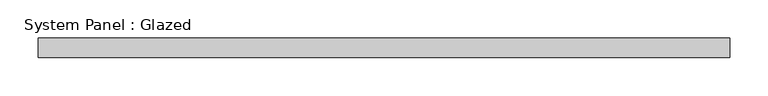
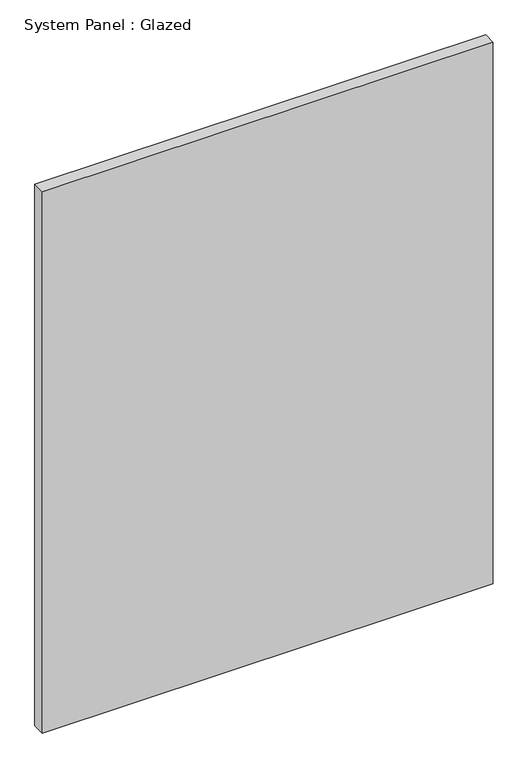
"""IFC4 building model written with IfcOpenShell, lengths in millimetres: plate geometry, System Panel : Glazed."""

from ifc_helpers import new_model, si_unit, origin, origin_with_axes, place, context, project, spatial, polyline, outline, extrude, source, transform, mapped, element, save


def system_panel_glazed_8c85efa3(model_context):
    return source(origin(), model_context, "Body", "SweptSolid", [
        extrude(outline(polyline([(451.3791667, -44.45), (-451.3791667, -44.45), (-451.3791667, -19.05), (451.3791667, -19.05), (451.3791667, -44.45)])), origin_with_axes(), (0.0, 0.0, 1.0), 1145.6475583),
    ])


if __name__ == "__main__":
    model = new_model("IFC4")
    model_context = context("Model", 3, world=origin())
    ifc_project = project(units=[si_unit("LENGTHUNIT", "METRE", prefix="MILLI")], contexts=[model_context])
    site = spatial("IfcSite", under=ifc_project)
    building = spatial("IfcBuilding", under=site)
    placement = place(None, origin())
    system_panel_glazed_shape = system_panel_glazed_8c85efa3(model_context)
    element("IfcPlate", 1, ObjectType="System Panel : Glazed", at=placement, inside=building, context=model_context, shape_type="MappedRepresentation", body=[
        mapped(system_panel_glazed_shape, transform((0.0, 0.0, 0.0), x_axis=(1.0, 0.0, 0.0), y_axis=(0.0, 1.0, 0.0), z_axis=(0.0, 0.0, 1.0))),
    ])
    save(model, "model.ifc")
